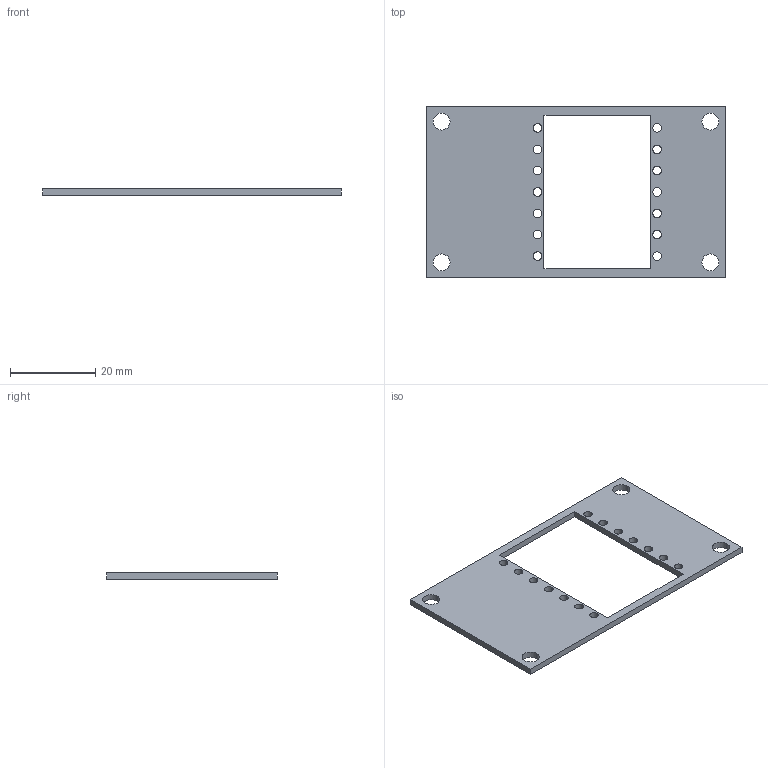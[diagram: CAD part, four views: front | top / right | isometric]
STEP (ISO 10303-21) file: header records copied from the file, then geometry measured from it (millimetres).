
FILE_DESCRIPTION (( 'STEP AP214' ), '1' );
FILE_NAME ('广角摄像头承载板2.0新电源.STEP', '2023-02-23T02:55:34', ( '' ), ( '' ), 'SwSTEP 2.0', 'SolidWorks 2022', '' );
FILE_SCHEMA (( 'AUTOMOTIVE_DESIGN' ));
Length unit declared in the file: millimetre
Products named in the file (1): 广角摄像头承载板2.0新电源
Bounding box: 70 x 40 x 1.5 mm (x, y, z)
Volume: 2708.6 mm3; surface area: 4331.8 mm2
Topology: 1 solids, 1 shells, 46 faces, 132 edges, 88 vertices
Faces by surface type: cylinder 36, plane 10
Entity records: 1658 total; most frequent: DIRECTION 298, CARTESIAN_POINT 267, ORIENTED_EDGE 264, EDGE_CURVE 132, AXIS2_PLACEMENT_3D 119, VERTEX_POINT 88, EDGE_LOOP 84, CIRCLE 72
